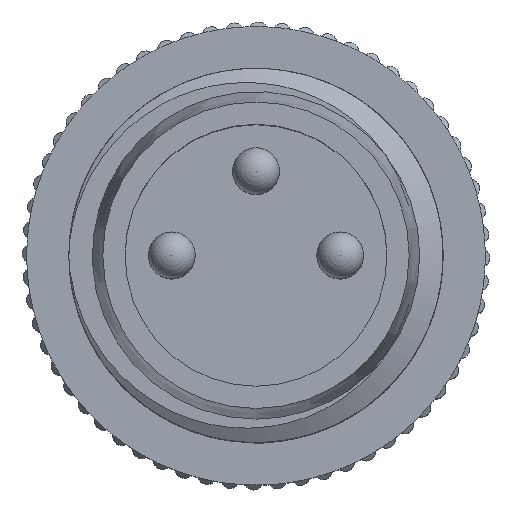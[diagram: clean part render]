
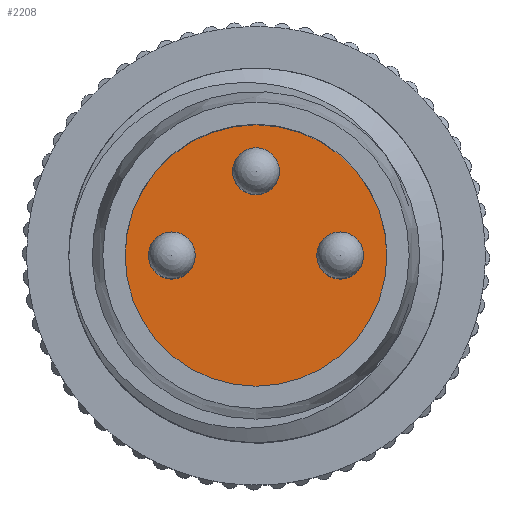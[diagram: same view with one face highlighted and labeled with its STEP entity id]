
A CAD part, top view. The second image highlights one B-rep face of the part: STEP entity #2208.
In plain terms, the highlighted planar face has unit normal (0, 0, 1).
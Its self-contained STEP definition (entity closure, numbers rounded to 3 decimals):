
#2208=ADVANCED_FACE('',(#2358,#2359,#2360,#2361),#2317,.T.);
#2317=PLANE('',#7183);
#2358=FACE_BOUND('',#2811,.T.);
#2359=FACE_BOUND('',#2812,.T.);
#2360=FACE_BOUND('',#2813,.T.);
#2361=FACE_BOUND('',#2814,.T.);
#2811=EDGE_LOOP('',(#4673));
#2812=EDGE_LOOP('',(#4674));
#2813=EDGE_LOOP('',(#4675));
#2814=EDGE_LOOP('',(#4676));
#4673=ORIENTED_EDGE('',*,*,#6160,.F.);
#4674=ORIENTED_EDGE('',*,*,#6161,.F.);
#4675=ORIENTED_EDGE('',*,*,#6162,.F.);
#4676=ORIENTED_EDGE('',*,*,#6163,.F.);
#5228=VERTEX_POINT('',#17293);
#5229=VERTEX_POINT('',#17295);
#5230=VERTEX_POINT('',#17297);
#5231=VERTEX_POINT('',#17299);
#6160=EDGE_CURVE('',#5228,#5228,#6473,.T.);
#6161=EDGE_CURVE('',#5229,#5229,#6474,.T.);
#6162=EDGE_CURVE('',#5230,#5230,#6475,.T.);
#6163=EDGE_CURVE('',#5231,#5231,#6476,.T.);
#6473=CIRCLE('',#7179,0.5);
#6474=CIRCLE('',#7180,0.5);
#6475=CIRCLE('',#7181,0.5);
#6476=CIRCLE('',#7182,2.8);
#7179=AXIS2_PLACEMENT_3D('',#17292,#8973,#8974);
#7180=AXIS2_PLACEMENT_3D('',#17294,#8975,#8976);
#7181=AXIS2_PLACEMENT_3D('',#17296,#8977,#8978);
#7182=AXIS2_PLACEMENT_3D('',#17298,#8979,#8980);
#7183=AXIS2_PLACEMENT_3D('',#17300,#8981,#8982);
#8973=DIRECTION('',(0.,0.,1.));
#8974=DIRECTION('',(1.,0.,0.));
#8975=DIRECTION('',(0.,0.,1.));
#8976=DIRECTION('',(1.,0.,0.));
#8977=DIRECTION('',(0.,0.,1.));
#8978=DIRECTION('',(1.,0.,0.));
#8979=DIRECTION('',(0.,0.,-1.));
#8980=DIRECTION('',(0.,-1.,0.));
#8981=DIRECTION('',(0.,0.,1.));
#8982=DIRECTION('',(0.,1.,0.));
#17292=CARTESIAN_POINT('',(-1.8,0.,11.8));
#17293=CARTESIAN_POINT('',(-1.3,0.,11.8));
#17294=CARTESIAN_POINT('',(0.,1.8,11.8));
#17295=CARTESIAN_POINT('',(0.5,1.8,11.8));
#17296=CARTESIAN_POINT('',(1.8,0.,11.8));
#17297=CARTESIAN_POINT('',(2.3,0.,11.8));
#17298=CARTESIAN_POINT('',(0.,0.,11.8));
#17299=CARTESIAN_POINT('',(0.,-2.8,11.8));
#17300=CARTESIAN_POINT('',(0.,0.,11.8));
